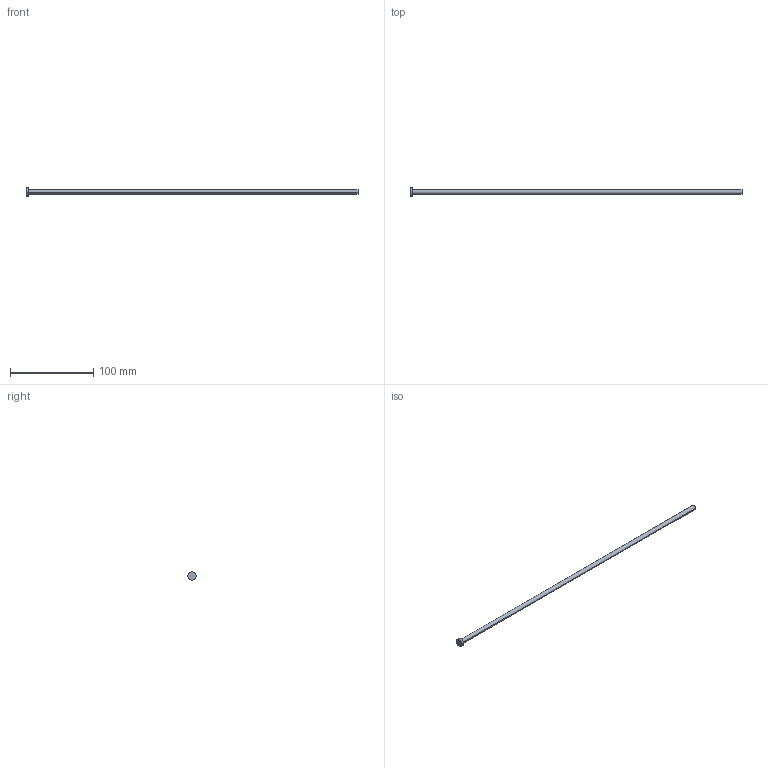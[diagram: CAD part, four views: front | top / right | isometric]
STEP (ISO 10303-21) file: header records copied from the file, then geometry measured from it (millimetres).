
FILE_DESCRIPTION (( 'STEP AP214' ), '1' );
FILE_NAME ('A-5,5x400.STEP', '2020-05-29T15:32:32', ( 'August' ), ( '' ), 'SwSTEP 2.0', 'SolidWorks 2018', '' );
FILE_SCHEMA (( 'AUTOMOTIVE_DESIGN' ));
Length unit declared in the file: millimetre
Products named in the file (1): A-5,5x400
Bounding box: 400 x 10 x 10 mm (x, y, z)
Volume: 9668 mm3; surface area: 7108.8 mm2
Topology: 1 solids, 1 shells, 9 faces, 16 edges, 10 vertices
Faces by surface type: cylinder 4, plane 3, torus 2
Entity records: 260 total; most frequent: DIRECTION 48, CARTESIAN_POINT 36, ORIENTED_EDGE 32, AXIS2_PLACEMENT_3D 22, EDGE_CURVE 16, CIRCLE 12, VERTEX_POINT 10, EDGE_LOOP 10
